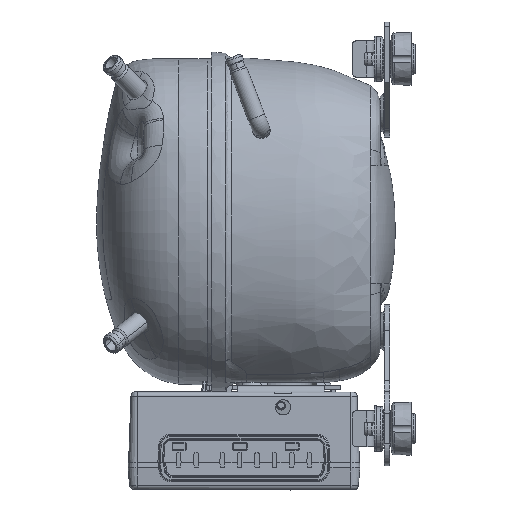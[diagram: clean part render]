
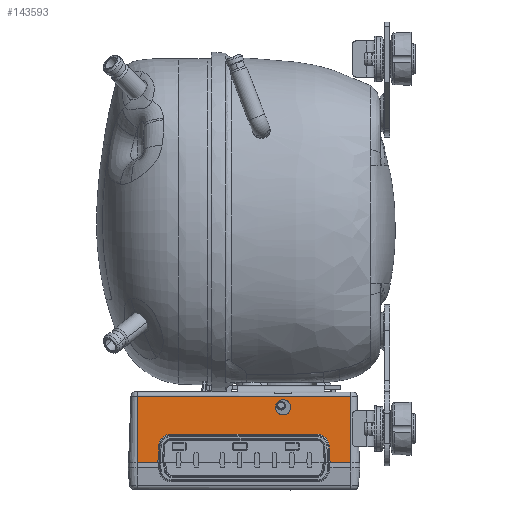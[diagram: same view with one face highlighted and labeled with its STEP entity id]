
A CAD part, left-side view. The second image highlights one B-rep face of the part: STEP entity #143593.
In plain terms, the highlighted planar face has unit normal (-0.999, 0, 0.034) as drawn and (0, 0.035, 0.999) by its records, which use the part's own axes.
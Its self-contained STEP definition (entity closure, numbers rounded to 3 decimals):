
#125094=DIRECTION('',(1.,0.,0.));
#125095=VECTOR('',#125094,98.3);
#125096=CARTESIAN_POINT('',(-49.15,33.07,34.495));
#125097=LINE('',#125096,#125095);
#126205=CARTESIAN_POINT('',(21.5,28.,34.672));
#126206=CARTESIAN_POINT('',(21.5,27.588,34.687));
#126207=CARTESIAN_POINT('',(21.351,26.696,
34.718));
#126208=CARTESIAN_POINT('',(20.548,25.451,
34.761));
#126209=CARTESIAN_POINT('',(19.513,24.783,
34.785));
#126210=CARTESIAN_POINT('',(18.632,24.537,
34.793));
#126211=CARTESIAN_POINT('',(18.,24.482,34.795));
#126212=CARTESIAN_POINT('',(17.368,24.537,
34.793));
#126213=CARTESIAN_POINT('',(16.487,24.783,
34.785));
#126214=CARTESIAN_POINT('',(15.452,25.451,
34.761));
#126215=CARTESIAN_POINT('',(14.649,26.696,
34.718));
#126216=CARTESIAN_POINT('',(14.5,27.588,34.687));
#126217=CARTESIAN_POINT('',(14.5,28.,34.672));
#126219=CARTESIAN_POINT('',(14.5,28.,34.672));
#126220=CARTESIAN_POINT('',(14.5,28.412,34.658));
#126221=CARTESIAN_POINT('',(14.649,29.304,
34.627));
#126222=CARTESIAN_POINT('',(15.452,30.549,
34.583));
#126223=CARTESIAN_POINT('',(16.487,31.217,
34.56));
#126224=CARTESIAN_POINT('',(17.368,31.463,
34.551));
#126225=CARTESIAN_POINT('',(18.,31.518,34.549));
#126226=CARTESIAN_POINT('',(18.632,31.463,
34.551));
#126227=CARTESIAN_POINT('',(19.513,31.217,
34.56));
#126228=CARTESIAN_POINT('',(20.548,30.549,
34.583));
#126229=CARTESIAN_POINT('',(21.351,29.304,
34.627));
#126230=CARTESIAN_POINT('',(21.5,28.412,34.658));
#126231=CARTESIAN_POINT('',(21.5,28.,34.672));
#126545=DIRECTION('',(-0.052,-0.998,0.035));
#126546=VECTOR('',#126545,7.79);
#126547=CARTESIAN_POINT('',(-39.182,10.275,
35.291));
#126548=LINE('',#126547,#126546);
#126549=DIRECTION('',(1.,0.,0.));
#126550=VECTOR('',#126549,9.563);
#126551=CARTESIAN_POINT('',(-49.15,2.5,35.563));
#126552=LINE('',#126551,#126550);
#126553=DIRECTION('',(0.,0.999,-0.035));
#126554=VECTOR('',#126553,30.588);
#126555=CARTESIAN_POINT('',(-49.15,2.5,35.563));
#126556=LINE('',#126555,#126554);
#126557=DIRECTION('',(1.,0.,0.));
#126558=VECTOR('',#126557,9.563);
#126559=CARTESIAN_POINT('',(39.587,2.5,35.563));
#126560=LINE('',#126559,#126558);
#126561=DIRECTION('',(-0.052,0.998,-0.035));
#126562=VECTOR('',#126561,7.79);
#126563=CARTESIAN_POINT('',(39.587,2.5,35.563));
#126564=LINE('',#126563,#126562);
#126565=CARTESIAN_POINT('',(39.182,10.275,
35.291));
#126566=CARTESIAN_POINT('',(39.176,10.39,
35.287));
#126567=CARTESIAN_POINT('',(39.155,10.644,
35.278));
#126568=CARTESIAN_POINT('',(39.082,11.11,
35.262));
#126569=CARTESIAN_POINT('',(38.95,11.634,
35.244));
#126570=CARTESIAN_POINT('',(38.745,12.197,
35.224));
#126571=CARTESIAN_POINT('',(38.459,12.772,
35.204));
#126572=CARTESIAN_POINT('',(38.091,13.335,
35.184));
#126573=CARTESIAN_POINT('',(37.646,13.861,
35.166));
#126574=CARTESIAN_POINT('',(37.137,14.33,
35.15));
#126575=CARTESIAN_POINT('',(36.582,14.727,
35.136));
#126576=CARTESIAN_POINT('',(36.002,15.044,
35.125));
#126577=CARTESIAN_POINT('',(35.424,15.279,
35.116));
#126578=CARTESIAN_POINT('',(34.871,15.436,
35.111));
#126579=CARTESIAN_POINT('',(34.368,15.527,
35.108));
#126580=CARTESIAN_POINT('',(33.931,15.568,
35.106));
#126581=CARTESIAN_POINT('',(33.701,15.573,
35.106));
#126582=CARTESIAN_POINT('',(33.6,15.573,
35.106));
#126584=DIRECTION('',(-1.,0.,0.));
#126585=VECTOR('',#126584,67.2);
#126586=CARTESIAN_POINT('',(33.6,15.573,
35.106));
#126587=LINE('',#126586,#126585);
#126588=CARTESIAN_POINT('',(-33.6,15.573,
35.106));
#126589=CARTESIAN_POINT('',(-33.714,15.573,
35.106));
#126590=CARTESIAN_POINT('',(-33.966,15.566,
35.106));
#126591=CARTESIAN_POINT('',(-34.413,15.521,
35.108));
#126592=CARTESIAN_POINT('',(-34.928,15.423,
35.111));
#126593=CARTESIAN_POINT('',(-35.482,15.258,
35.117));
#126594=CARTESIAN_POINT('',(-36.058,15.017,
35.126));
#126595=CARTESIAN_POINT('',(-36.632,14.695,
35.137));
#126596=CARTESIAN_POINT('',(-37.181,14.294,
35.151));
#126597=CARTESIAN_POINT('',(-37.684,13.821,
35.167));
#126598=CARTESIAN_POINT('',(-38.124,13.289,
35.186));
#126599=CARTESIAN_POINT('',(-38.487,12.722,
35.206));
#126600=CARTESIAN_POINT('',(-38.767,12.145,
35.226));
#126601=CARTESIAN_POINT('',(-38.965,11.586,
35.245));
#126602=CARTESIAN_POINT('',(-39.09,11.069,
35.263));
#126603=CARTESIAN_POINT('',(-39.158,10.619,
35.279));
#126604=CARTESIAN_POINT('',(-39.176,10.38,
35.288));
#126605=CARTESIAN_POINT('',(-39.182,10.275,
35.291));
#137119=DIRECTION('',(0.,0.999,-0.035));
#137120=VECTOR('',#137119,30.588);
#137121=CARTESIAN_POINT('',(49.15,2.5,35.563));
#137122=LINE('',#137121,#137120);
#137654=CARTESIAN_POINT('',(-49.15,2.5,35.563));
#137656=VERTEX_POINT('',#137654);
#137657=CARTESIAN_POINT('',(49.15,2.5,35.563));
#137659=VERTEX_POINT('',#137657);
#137669=CARTESIAN_POINT('',(-49.15,33.07,34.495));
#137670=CARTESIAN_POINT('',(49.15,33.07,34.495));
#137671=VERTEX_POINT('',#137669);
#137672=VERTEX_POINT('',#137670);
#138007=VERTEX_POINT('',#126205);
#138008=VERTEX_POINT('',#126217);
#138527=CARTESIAN_POINT('',(-39.182,10.275,
35.291));
#138528=CARTESIAN_POINT('',(-39.587,2.5,35.563));
#138529=VERTEX_POINT('',#138527);
#138530=VERTEX_POINT('',#138528);
#138535=VERTEX_POINT('',#126588);
#138537=CARTESIAN_POINT('',(33.6,15.573,
35.106));
#138538=VERTEX_POINT('',#138537);
#138541=VERTEX_POINT('',#126565);
#138543=CARTESIAN_POINT('',(39.587,2.5,35.563));
#138544=VERTEX_POINT('',#138543);
#143561=CARTESIAN_POINT('',(-51.742,0.,35.65));
#143562=DIRECTION('',(0.,0.035,0.999));
#143563=DIRECTION('',(1.,0.,0.));
#143564=AXIS2_PLACEMENT_3D('',#143561,#143562,#143563);
#143565=PLANE('',#143564);
#143567=ORIENTED_EDGE('',*,*,#143566,.T.);
#143569=ORIENTED_EDGE('',*,*,#143568,.F.);
#143571=ORIENTED_EDGE('',*,*,#143570,.T.);
#143572=ORIENTED_EDGE('',*,*,#141966,.T.);
#143574=ORIENTED_EDGE('',*,*,#143573,.F.);
#143576=ORIENTED_EDGE('',*,*,#143575,.F.);
#143578=ORIENTED_EDGE('',*,*,#143577,.T.);
#143580=ORIENTED_EDGE('',*,*,#143579,.T.);
#143582=ORIENTED_EDGE('',*,*,#143581,.T.);
#143584=ORIENTED_EDGE('',*,*,#143583,.T.);
#143585=EDGE_LOOP('',(#143567,#143569,#143571,#143572,#143574,#143576,#143578,
#143580,#143582,#143584));
#143586=FACE_OUTER_BOUND('',#143585,.F.);
#143588=ORIENTED_EDGE('',*,*,#143587,.F.);
#143590=ORIENTED_EDGE('',*,*,#143589,.F.);
#143591=EDGE_LOOP('',(#143588,#143590));
#143592=FACE_BOUND('',#143591,.F.);
#126218=B_SPLINE_CURVE_WITH_KNOTS('',3,(#126205,#126206,#126207,#126208,#126209,
#126210,#126211,#126212,#126213,#126214,#126215,#126216,#126217),.UNSPECIFIED.,
.F.,.F.,(4,1,1,1,1,1,1,1,1,1,4),(0.,0.125,0.25,0.375,0.438,0.5,
0.563,0.625,0.75,0.875,1.),.UNSPECIFIED.);
#126232=B_SPLINE_CURVE_WITH_KNOTS('',3,(#126219,#126220,#126221,#126222,#126223,
#126224,#126225,#126226,#126227,#126228,#126229,#126230,#126231),.UNSPECIFIED.,
.F.,.F.,(4,1,1,1,1,1,1,1,1,1,4),(0.,0.125,0.25,0.375,0.438,0.5,
0.563,0.625,0.75,0.875,1.),.UNSPECIFIED.);
#126583=B_SPLINE_CURVE_WITH_KNOTS('',3,(#126565,#126566,#126567,#126568,#126569,
#126570,#126571,#126572,#126573,#126574,#126575,#126576,#126577,#126578,#126579,
#126580,#126581,#126582),.UNSPECIFIED.,.F.,.F.,(4,1,1,1,1,1,1,1,1,1,1,1,1,1,1,
4),(0.,0.067,0.133,0.2,0.267,
0.333,0.4,0.467,0.533,0.6,
0.667,0.733,0.8,0.867,0.933,
1.),.UNSPECIFIED.);
#126606=B_SPLINE_CURVE_WITH_KNOTS('',3,(#126588,#126589,#126590,#126591,#126592,
#126593,#126594,#126595,#126596,#126597,#126598,#126599,#126600,#126601,#126602,
#126603,#126604,#126605),.UNSPECIFIED.,.F.,.F.,(4,1,1,1,1,1,1,1,1,1,1,1,1,1,1,
4),(0.,0.067,0.133,0.2,0.267,
0.333,0.4,0.467,0.533,0.6,
0.667,0.733,0.8,0.867,0.933,
1.),.UNSPECIFIED.);
#141966=EDGE_CURVE('',#137671,#137672,#125097,.T.);
#143566=EDGE_CURVE('',#138529,#138530,#126548,.T.);
#143568=EDGE_CURVE('',#137656,#138530,#126552,.T.);
#143570=EDGE_CURVE('',#137656,#137671,#126556,.T.);
#143573=EDGE_CURVE('',#137659,#137672,#137122,.T.);
#143575=EDGE_CURVE('',#138544,#137659,#126560,.T.);
#143577=EDGE_CURVE('',#138544,#138541,#126564,.T.);
#143579=EDGE_CURVE('',#138541,#138538,#126583,.T.);
#143581=EDGE_CURVE('',#138538,#138535,#126587,.T.);
#143583=EDGE_CURVE('',#138535,#138529,#126606,.T.);
#143587=EDGE_CURVE('',#138007,#138008,#126218,.T.);
#143589=EDGE_CURVE('',#138008,#138007,#126232,.T.);
#143593=ADVANCED_FACE('',(#143586,#143592),#143565,.T.);
